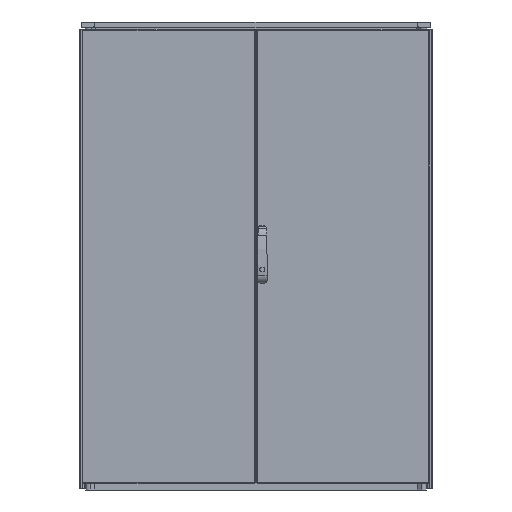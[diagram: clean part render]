
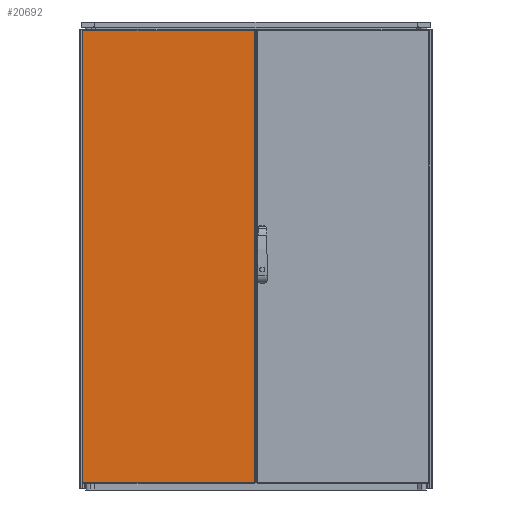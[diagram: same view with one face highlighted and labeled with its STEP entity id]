
A CAD part, front view. The second image highlights one B-rep face of the part: STEP entity #20692.
In plain terms, the highlighted planar face has unit normal (0, -1, 0).
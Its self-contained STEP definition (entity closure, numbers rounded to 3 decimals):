
#5437=ORIENTED_EDGE('',*,*,#9586,.T.);
#5438=ORIENTED_EDGE('',*,*,#9587,.T.);
#5439=ORIENTED_EDGE('',*,*,#9588,.T.);
#5440=ORIENTED_EDGE('',*,*,#9589,.T.);
#9586=EDGE_CURVE('',#11941,#11942,#13953,.F.);
#9587=EDGE_CURVE('',#11942,#11943,#13954,.F.);
#9588=EDGE_CURVE('',#11943,#11944,#13955,.F.);
#9589=EDGE_CURVE('',#11944,#11941,#13956,.F.);
#11941=VERTEX_POINT('',#33819);
#11942=VERTEX_POINT('',#33820);
#11943=VERTEX_POINT('',#33822);
#11944=VERTEX_POINT('',#33824);
#13953=LINE('',#33818,#15994);
#13954=LINE('',#33821,#15995);
#13955=LINE('',#33823,#15996);
#13956=LINE('',#33825,#15997);
#15994=VECTOR('',#27143,1000.);
#15995=VECTOR('',#27144,1000.);
#15996=VECTOR('',#27145,1000.);
#15997=VECTOR('',#27146,1000.);
#17502=EDGE_LOOP('',(#5437,#5438,#5439,#5440));
#18789=FACE_BOUND('',#17502,.T.);
#19705=PLANE('',#22518);
#20692=ADVANCED_FACE('',(#18789),#19705,.F.);
#22518=AXIS2_PLACEMENT_3D('',#33817,#27141,#27142);
#27141=DIRECTION('',(0.,1.,0.));
#27142=DIRECTION('',(0.,0.,1.));
#27143=DIRECTION('',(1.,0.,0.));
#27144=DIRECTION('',(0.,0.,1.));
#27145=DIRECTION('',(-1.,0.,0.));
#27146=DIRECTION('',(0.,0.,-1.));
#33817=CARTESIAN_POINT('',(0.,0.,0.));
#33818=CARTESIAN_POINT('',(0.,0.,777.));
#33819=CARTESIAN_POINT('',(294.5,0.,777.));
#33820=CARTESIAN_POINT('',(-294.5,0.,777.));
#33821=CARTESIAN_POINT('',(-294.5,0.,0.));
#33822=CARTESIAN_POINT('',(-294.5,0.,-777.));
#33823=CARTESIAN_POINT('',(0.,0.,-777.));
#33824=CARTESIAN_POINT('',(294.5,0.,-777.));
#33825=CARTESIAN_POINT('',(294.5,0.,0.));
